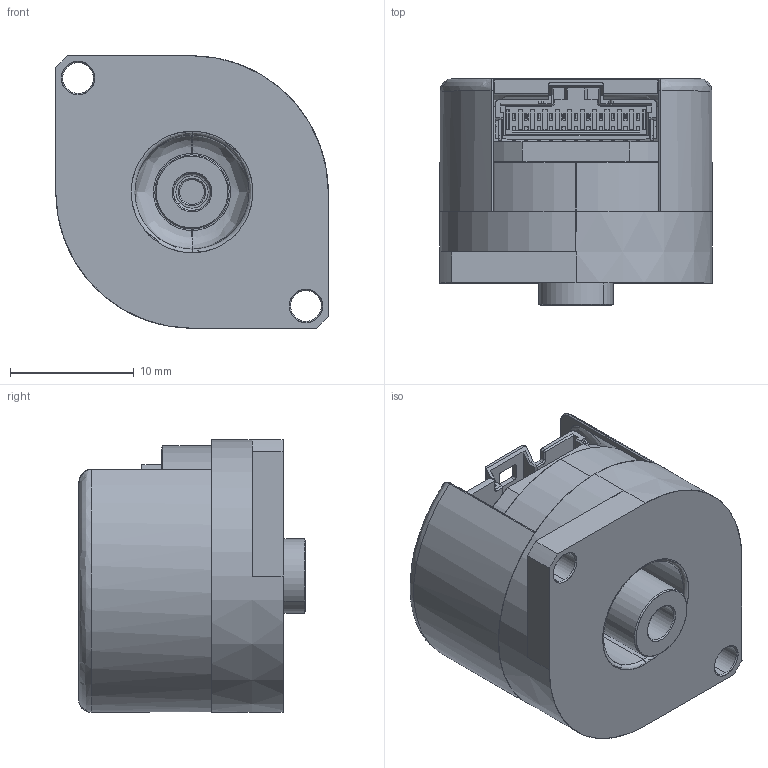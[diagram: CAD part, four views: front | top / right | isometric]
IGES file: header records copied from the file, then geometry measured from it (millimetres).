
Start section: SolidWorks IGES file using analytic representation for surfaces
Global section: file name: D:\CERAR\Dokumenti\1\RMC22-subass-01-RMA03A3A07mag-actuator.IGS; native system: SolidWorks 2013; preprocessor: SolidWorks 2013; author: cerar; date: 140113.092312; units: millimetre
Bounding box: 22 x 18.3 x 22 mm (x, y, z)
Surface area: 5599.3 mm2 (no closed solid volume)
Topology: 0 solids, 0 shells, 1664 faces, 10424 edges, 10398 vertices
Faces by surface type: bspline 1193, revolution 471
